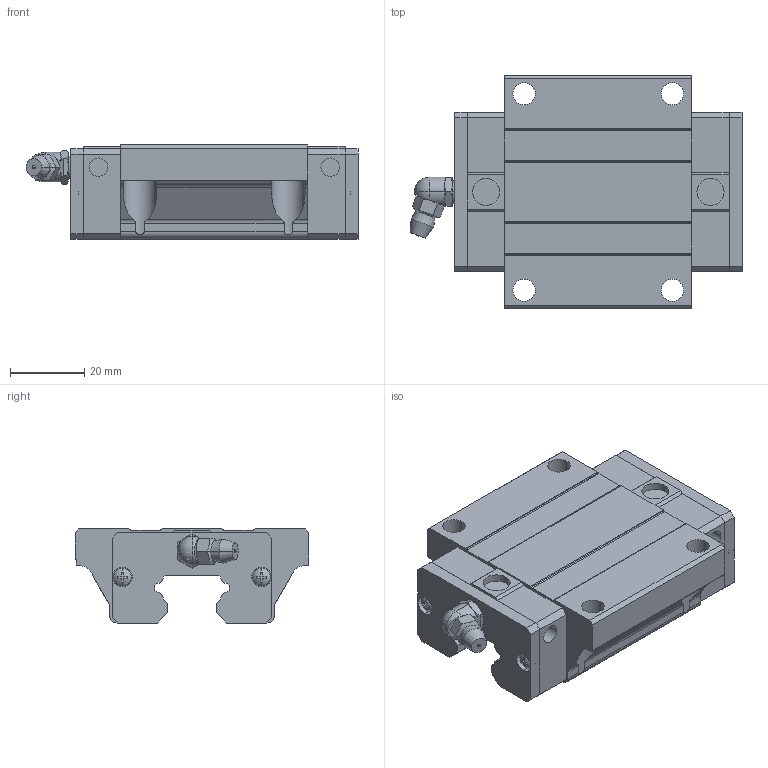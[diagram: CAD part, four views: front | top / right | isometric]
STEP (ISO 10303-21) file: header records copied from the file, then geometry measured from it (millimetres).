
FILE_DESCRIPTION(('starvars output'),'2;1');
FILE_NAME('cv20190626221913000040856.stp','22:19:13 2019/06/26',( 'Thomas Industrial Network Germany GmbH'),( 'Thomas Industrial Network Germany GmbH'),'unknown preprocess','ACIS' ,'unknown authorization');
FILE_SCHEMA(('CONFIG_CONTROL_DESIGN {UNKNOWN IMPLEMENTATION LEVEL}'));
Length unit declared in the file: millimetre
Products named in the file (10): PRODUCT_ID_1; PRODUCT_ID_2; PRODUCT_ID_3; PRODUCT_ID_4; PRODUCT_ID_5; PRODUCT_ID_6; PRODUCT_ID_7; PRODUCT_ID_8; PRODUCT_ID_9; PRODUCT_ID_10
Bounding box: 89.5 x 63 x 25.4 mm (x, y, z)
Volume: 79417.6 mm3; surface area: 25647.1 mm2
Topology: 10 solids, 10 shells, 400 faces, 1061 edges, 690 vertices
Faces by surface type: plane 265, cylinder 83, cone 40, sphere 12
Entity records: 12140 total; most frequent: CARTESIAN_POINT 2133, ORIENTED_EDGE 2114, DIRECTION 1648, EDGE_CURVE 1057, VERTEX_POINT 690, VECTOR 666, LINE 666, AXIS2_PLACEMENT_3D 491
